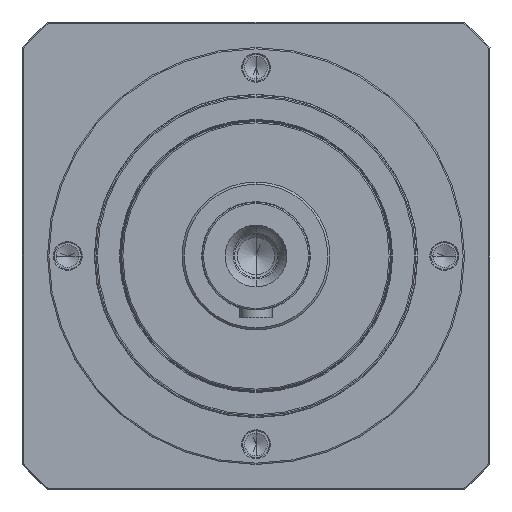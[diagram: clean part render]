
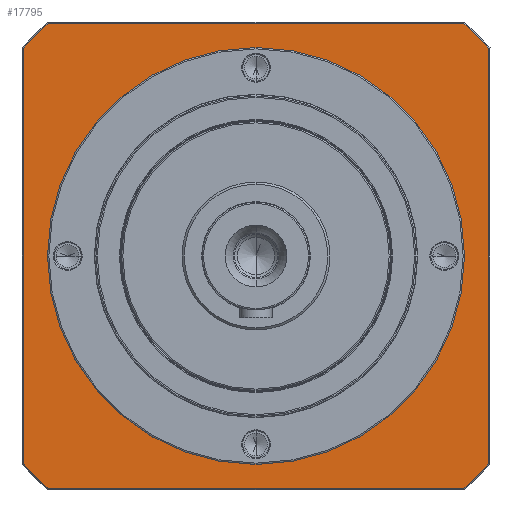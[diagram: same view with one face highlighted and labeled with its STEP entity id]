
A CAD part, left-side view. The second image highlights one B-rep face of the part: STEP entity #17795.
In plain terms, the highlighted planar face has unit normal (-1, 0, 0) as drawn and (0, 0, -1) by its records, which use the part's own axes.
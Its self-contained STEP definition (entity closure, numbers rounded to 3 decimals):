
#16681=CARTESIAN_POINT('',(0.,0.,
2.5));
#16682=DIRECTION('',(0.,0.,-1.));
#16683=DIRECTION('',(0.,-1.,0.));
#16684=AXIS2_PLACEMENT_3D('',#16681,#16682,#16683);
#16686=CARTESIAN_POINT('',(0.,0.,
2.5));
#16687=DIRECTION('',(0.,0.,-1.));
#16688=DIRECTION('',(0.,1.,0.));
#16689=AXIS2_PLACEMENT_3D('',#16686,#16687,#16688);
#16691=CARTESIAN_POINT('',(0.,0.,2.5));
#16692=DIRECTION('',(0.,0.,1.));
#16693=DIRECTION('',(-0.746,-0.666,0.));
#16694=AXIS2_PLACEMENT_3D('',#16691,#16692,#16693);
#16696=DIRECTION('',(1.,0.,0.));
#16697=VECTOR('',#16696,154.58);
#16698=CARTESIAN_POINT('',(-77.29,-86.5,
2.5));
#16699=LINE('',#16698,#16697);
#16700=CARTESIAN_POINT('',(0.,0.,2.5));
#16701=DIRECTION('',(0.,0.,1.));
#16702=DIRECTION('',(0.666,-0.746,0.));
#16703=AXIS2_PLACEMENT_3D('',#16700,#16701,#16702);
#16705=DIRECTION('',(0.,1.,0.));
#16706=VECTOR('',#16705,154.58);
#16707=CARTESIAN_POINT('',(86.5,-77.29,
2.5));
#16708=LINE('',#16707,#16706);
#16709=CARTESIAN_POINT('',(0.,0.,2.5));
#16710=DIRECTION('',(0.,0.,1.));
#16711=DIRECTION('',(0.746,0.666,0.));
#16712=AXIS2_PLACEMENT_3D('',#16709,#16710,#16711);
#16714=DIRECTION('',(-1.,0.,0.));
#16715=VECTOR('',#16714,154.58);
#16716=CARTESIAN_POINT('',(77.29,86.5,2.5));
#16717=LINE('',#16716,#16715);
#16718=CARTESIAN_POINT('',(0.,0.,2.5));
#16719=DIRECTION('',(0.,0.,1.));
#16720=DIRECTION('',(-0.666,0.746,0.));
#16721=AXIS2_PLACEMENT_3D('',#16718,#16719,#16720);
#16723=DIRECTION('',(0.,-1.,0.));
#16724=VECTOR('',#16723,154.58);
#16725=CARTESIAN_POINT('',(-86.5,77.29,
2.5));
#16726=LINE('',#16725,#16724);
#17444=CARTESIAN_POINT('',(0.,-69.5,2.5));
#17445=CARTESIAN_POINT('',(0.,69.5,
2.5));
#17446=VERTEX_POINT('',#17444);
#17447=VERTEX_POINT('',#17445);
#17548=CARTESIAN_POINT('',(-86.5,-77.29,2.5));
#17549=CARTESIAN_POINT('',(-77.29,-86.5,2.5));
#17550=VERTEX_POINT('',#17548);
#17551=VERTEX_POINT('',#17549);
#17556=CARTESIAN_POINT('',(77.29,-86.5,
2.5));
#17557=VERTEX_POINT('',#17556);
#17560=CARTESIAN_POINT('',(86.5,-77.29,2.5));
#17561=VERTEX_POINT('',#17560);
#17564=CARTESIAN_POINT('',(86.5,77.29,2.5));
#17565=VERTEX_POINT('',#17564);
#17568=CARTESIAN_POINT('',(77.29,86.5,2.5));
#17569=VERTEX_POINT('',#17568);
#17572=CARTESIAN_POINT('',(-77.29,86.5,
2.5));
#17573=VERTEX_POINT('',#17572);
#17578=CARTESIAN_POINT('',(-86.5,77.29,2.5));
#17579=VERTEX_POINT('',#17578);
#17767=CARTESIAN_POINT('',(0.,0.,2.5));
#17768=DIRECTION('',(0.,0.,1.));
#17769=DIRECTION('',(0.,1.,0.));
#17770=AXIS2_PLACEMENT_3D('',#17767,#17768,#17769);
#17771=PLANE('',#17770);
#17773=ORIENTED_EDGE('',*,*,#17772,.T.);
#17775=ORIENTED_EDGE('',*,*,#17774,.T.);
#17777=ORIENTED_EDGE('',*,*,#17776,.T.);
#17779=ORIENTED_EDGE('',*,*,#17778,.T.);
#17781=ORIENTED_EDGE('',*,*,#17780,.T.);
#17783=ORIENTED_EDGE('',*,*,#17782,.T.);
#17785=ORIENTED_EDGE('',*,*,#17784,.T.);
#17787=ORIENTED_EDGE('',*,*,#17786,.T.);
#17788=EDGE_LOOP('',(#17773,#17775,#17777,#17779,#17781,#17783,#17785,#17787));
#17789=FACE_OUTER_BOUND('',#17788,.F.);
#17791=ORIENTED_EDGE('',*,*,#17790,.T.);
#17792=ORIENTED_EDGE('',*,*,#17757,.T.);
#17793=EDGE_LOOP('',(#17791,#17792));
#17794=FACE_BOUND('',#17793,.F.);
#17795=ADVANCED_FACE('',(#17789,#17794),#17771,.F.);
#16685=CIRCLE('',#16684,69.5);
#16690=CIRCLE('',#16689,69.5);
#16695=CIRCLE('',#16694,116.);
#16704=CIRCLE('',#16703,116.);
#16713=CIRCLE('',#16712,116.);
#16722=CIRCLE('',#16721,116.);
#17757=EDGE_CURVE('',#17447,#17446,#16690,.T.);
#17772=EDGE_CURVE('',#17550,#17551,#16695,.T.);
#17774=EDGE_CURVE('',#17551,#17557,#16699,.T.);
#17776=EDGE_CURVE('',#17557,#17561,#16704,.T.);
#17778=EDGE_CURVE('',#17561,#17565,#16708,.T.);
#17780=EDGE_CURVE('',#17565,#17569,#16713,.T.);
#17782=EDGE_CURVE('',#17569,#17573,#16717,.T.);
#17784=EDGE_CURVE('',#17573,#17579,#16722,.T.);
#17786=EDGE_CURVE('',#17579,#17550,#16726,.T.);
#17790=EDGE_CURVE('',#17446,#17447,#16685,.T.);
